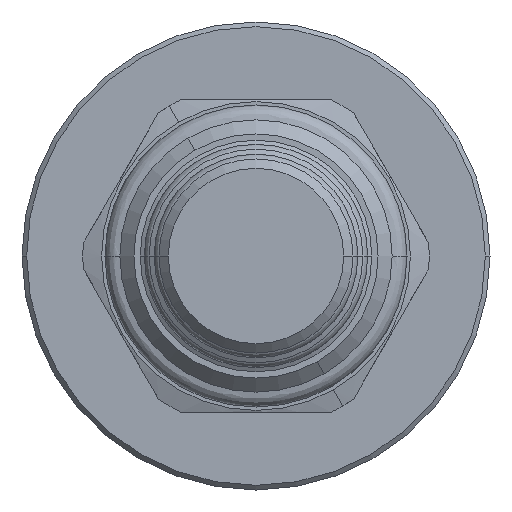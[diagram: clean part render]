
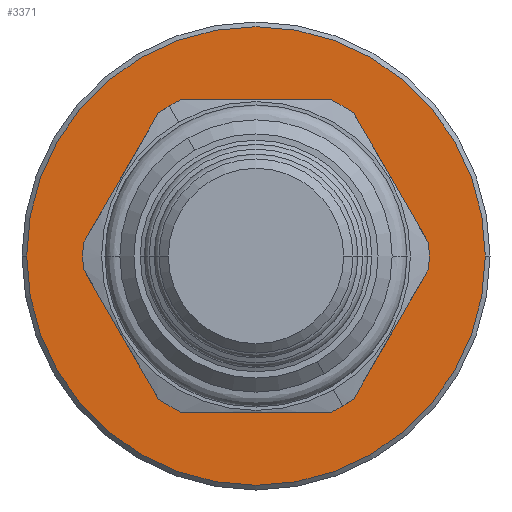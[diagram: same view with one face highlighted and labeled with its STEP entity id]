
A CAD part, front view. The second image highlights one B-rep face of the part: STEP entity #3371.
In plain terms, the highlighted planar face has unit normal (0, -1, 0).
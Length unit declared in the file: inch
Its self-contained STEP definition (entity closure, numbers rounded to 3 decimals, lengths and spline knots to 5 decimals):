
#855=CARTESIAN_POINT('',(0.,2.12054,0.));
#856=DIRECTION('',(0.,-1.,0.));
#857=DIRECTION('',(-1.,0.,0.));
#858=AXIS2_PLACEMENT_3D('',#855,#856,#857);
#873=CARTESIAN_POINT('',(0.,2.12054,0.));
#874=DIRECTION('',(0.,-1.,0.));
#875=DIRECTION('',(-1.,0.,0.));
#876=AXIS2_PLACEMENT_3D('',#873,#874,#875);
#878=CARTESIAN_POINT('',(0.,2.12054,0.));
#879=DIRECTION('',(0.,-1.,0.));
#880=DIRECTION('',(1.,0.,0.));
#881=AXIS2_PLACEMENT_3D('',#878,#879,#880);
#883=CARTESIAN_POINT('',(0.,2.12054,0.));
#884=DIRECTION('',(0.,-1.,0.));
#885=DIRECTION('',(1.,0.,0.));
#886=AXIS2_PLACEMENT_3D('',#883,#884,#885);
#2365=CARTESIAN_POINT('',(-0.375,2.12054,0.));
#2366=CARTESIAN_POINT('',(0.375,2.12054,0.));
#2367=VERTEX_POINT('',#2365);
#2368=VERTEX_POINT('',#2366);
#2369=CARTESIAN_POINT('',(0.735,2.12054,0.));
#2370=CARTESIAN_POINT('',(-0.735,2.12054,0.));
#2371=VERTEX_POINT('',#2369);
#2372=VERTEX_POINT('',#2370);
#3355=CARTESIAN_POINT('',(0.,2.12054,0.));
#3356=DIRECTION('',(0.,-1.,0.));
#3357=DIRECTION('',(-1.,0.,0.));
#3358=AXIS2_PLACEMENT_3D('',#3355,#3356,#3357);
#3359=PLANE('',#3358);
#3360=ORIENTED_EDGE('',*,*,#3345,.F.);
#3362=ORIENTED_EDGE('',*,*,#3361,.F.);
#3363=EDGE_LOOP('',(#3360,#3362));
#3364=FACE_OUTER_BOUND('',#3363,.F.);
#3366=ORIENTED_EDGE('',*,*,#3365,.T.);
#3368=ORIENTED_EDGE('',*,*,#3367,.T.);
#3369=EDGE_LOOP('',(#3366,#3368));
#3370=FACE_BOUND('',#3369,.F.);
#3371=ADVANCED_FACE('',(#3364,#3370),#3359,.T.);
#859=CIRCLE('',#858,0.735);
#877=CIRCLE('',#876,0.375);
#882=CIRCLE('',#881,0.375);
#887=CIRCLE('',#886,0.735);
#3345=EDGE_CURVE('',#2372,#2371,#859,.T.);
#3361=EDGE_CURVE('',#2371,#2372,#887,.T.);
#3365=EDGE_CURVE('',#2367,#2368,#877,.T.);
#3367=EDGE_CURVE('',#2368,#2367,#882,.T.);
